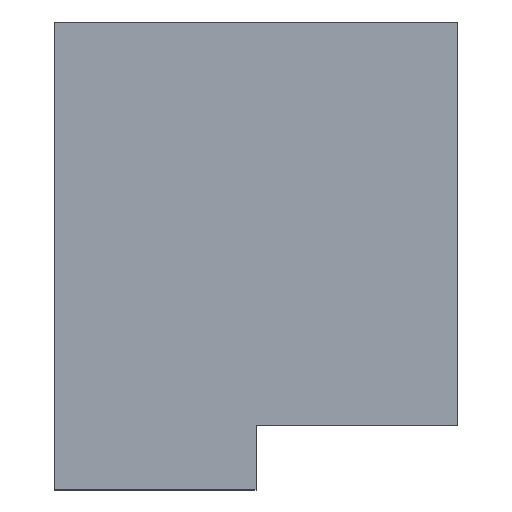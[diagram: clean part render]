
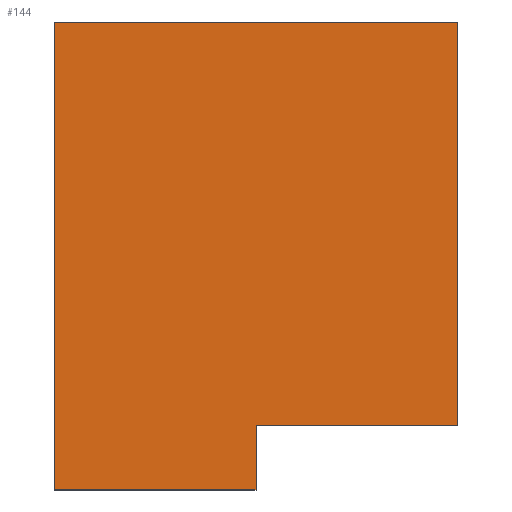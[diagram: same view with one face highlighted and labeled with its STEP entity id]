
A CAD part, top view. The second image highlights one B-rep face of the part: STEP entity #144.
In plain terms, the highlighted planar face has unit normal (0, 0, 1).
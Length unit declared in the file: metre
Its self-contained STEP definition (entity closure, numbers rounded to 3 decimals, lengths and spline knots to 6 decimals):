
#36=ORIENTED_EDGE('',*,*,#65,.T.);
#37=ORIENTED_EDGE('',*,*,#62,.T.);
#38=ORIENTED_EDGE('',*,*,#59,.T.);
#39=ORIENTED_EDGE('',*,*,#56,.T.);
#40=ORIENTED_EDGE('',*,*,#53,.T.);
#41=ORIENTED_EDGE('',*,*,#50,.T.);
#50=EDGE_CURVE('',#69,#68,#80,.F.);
#53=EDGE_CURVE('',#71,#69,#83,.T.);
#56=EDGE_CURVE('',#73,#71,#86,.T.);
#59=EDGE_CURVE('',#75,#73,#89,.F.);
#62=EDGE_CURVE('',#77,#75,#92,.T.);
#65=EDGE_CURVE('',#68,#77,#95,.F.);
#68=VERTEX_POINT('',#201);
#69=VERTEX_POINT('',#203);
#71=VERTEX_POINT('',#209);
#73=VERTEX_POINT('',#215);
#75=VERTEX_POINT('',#221);
#77=VERTEX_POINT('',#227);
#80=LINE('',#202,#98);
#83=LINE('',#208,#101);
#86=LINE('',#214,#104);
#89=LINE('',#220,#107);
#92=LINE('',#226,#110);
#95=LINE('',#231,#113);
#98=VECTOR('',#165,1.);
#101=VECTOR('',#170,1.);
#104=VECTOR('',#175,1.);
#107=VECTOR('',#180,1.);
#110=VECTOR('',#185,1.);
#113=VECTOR('',#190,1.);
#120=EDGE_LOOP('',(#36,#37,#38,#39,#40,#41));
#128=FACE_BOUND('',#120,.T.);
#136=PLANE('',#157);
#144=ADVANCED_FACE('',(#128),#136,.T.);
#157=AXIS2_PLACEMENT_3D('',#232,#191,#192);
#165=DIRECTION('',(0.,1.,0.));
#170=DIRECTION('',(-1.,0.,0.));
#175=DIRECTION('',(0.,1.,0.));
#180=DIRECTION('',(-1.,0.,0.));
#185=DIRECTION('',(0.,1.,0.));
#190=DIRECTION('',(-1.,0.,0.));
#191=DIRECTION('',(0.,0.,1.));
#192=DIRECTION('',(0.,1.,0.));
#201=CARTESIAN_POINT('',(-0.03785,-0.00193,-0.02969));
#202=CARTESIAN_POINT('',(-0.03785,0.,-0.02969));
#203=CARTESIAN_POINT('',(-0.03785,-0.00135,-0.02969));
#208=CARTESIAN_POINT('',(-0.0384,-0.00135,-0.02969));
#209=CARTESIAN_POINT('',(-0.03735,-0.00135,-0.02969));
#214=CARTESIAN_POINT('',(-0.03735,0.,-0.02969));
#215=CARTESIAN_POINT('',(-0.03735,-0.00185,-0.02969));
#220=CARTESIAN_POINT('',(-0.0384,-0.00185,-0.02969));
#221=CARTESIAN_POINT('',(-0.0376,-0.00185,-0.02969));
#226=CARTESIAN_POINT('',(-0.0376,0.,-0.02969));
#227=CARTESIAN_POINT('',(-0.0376,-0.00193,-0.02969));
#231=CARTESIAN_POINT('',(-0.0384,-0.00193,-0.02969));
#232=CARTESIAN_POINT('',(-0.0384,0.,-0.02969));
